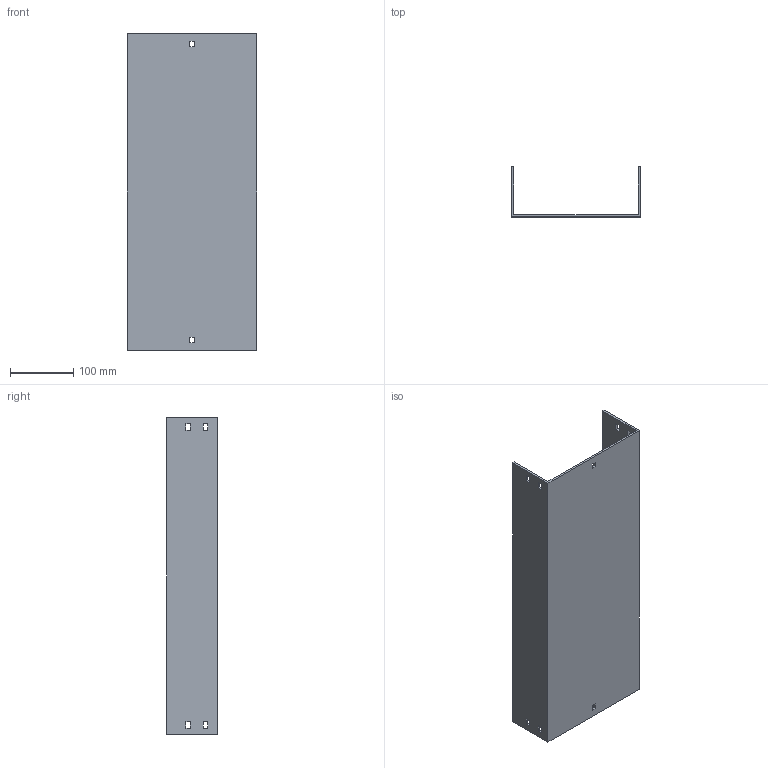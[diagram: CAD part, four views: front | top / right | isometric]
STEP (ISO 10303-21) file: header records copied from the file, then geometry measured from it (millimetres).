
FILE_DESCRIPTION (( 'STEP AP214' ), '1' );
FILE_NAME ('03F7C200.step', '2025-02-21T13:33:01', ( '' ), ( '' ), 'SwSTEP 2.0', 'SolidWorks 2023', '' );
FILE_SCHEMA (( 'AUTOMOTIVE_DESIGN' ));
Length unit declared in the file: millimetre
Products named in the file (1): 03F7C200
Bounding box: 204 x 79 x 500 mm (x, y, z)
Volume: 618880.5 mm3; surface area: 360800 mm2
Topology: 1 solids, 1 shells, 50 faces, 144 edges, 96 vertices
Faces by surface type: plane 50
Entity records: 1671 total; most frequent: CARTESIAN_POINT 291, ORIENTED_EDGE 288, DIRECTION 246, VECTOR 144, EDGE_CURVE 144, LINE 144, VERTEX_POINT 96, EDGE_LOOP 70
